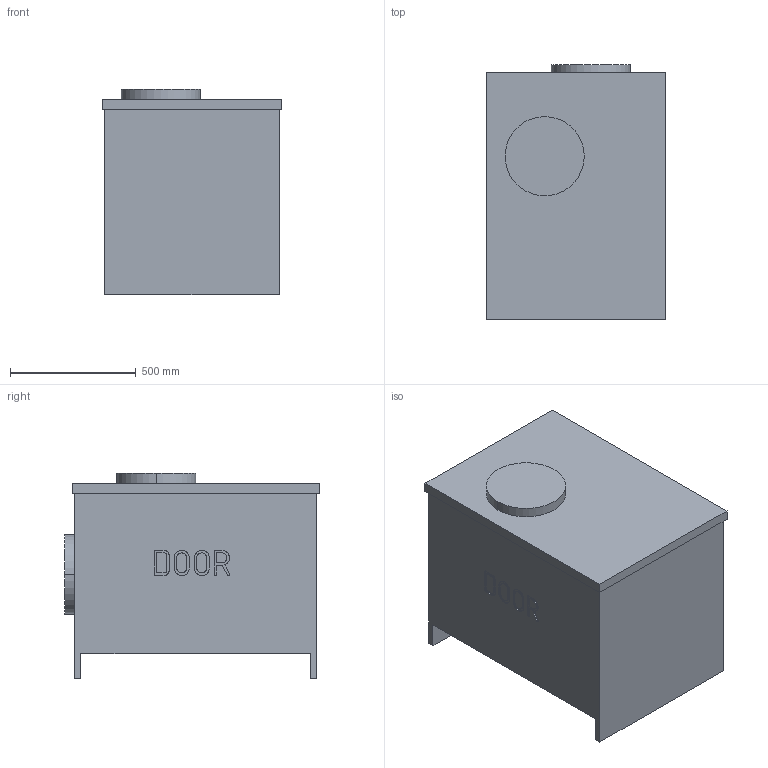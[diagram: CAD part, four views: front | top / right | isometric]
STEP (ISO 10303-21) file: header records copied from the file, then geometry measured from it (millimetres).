
FILE_DESCRIPTION(('STEP AP214'),'1');
FILE_NAME('Soundbox 315.stp','2019-11-26T10:18:34',(' '),(' '),'Spatial InterOp 3D',' ',' ');
FILE_SCHEMA(('AUTOMOTIVE_DESIGN { 1 0 10303 214 1 1 1 1 }'));
Length unit declared in the file: metre
Products named in the file (1): Solid1
Bounding box: 715 x 1014 x 818 mm (x, y, z)
Volume: 465248813.2 mm3; surface area: 4037058.9 mm2
Topology: 1 solids, 1 shells, 87 faces, 222 edges, 148 vertices
Faces by surface type: plane 50, extrusion 33, cylinder 4
Entity records: 2958 total; most frequent: CARTESIAN_POINT 939, ORIENTED_EDGE 444, DIRECTION 307, EDGE_CURVE 222, VECTOR 181, VERTEX_POINT 148, LINE 148, B_SPLINE_CURVE_WITH_KNOTS 99
